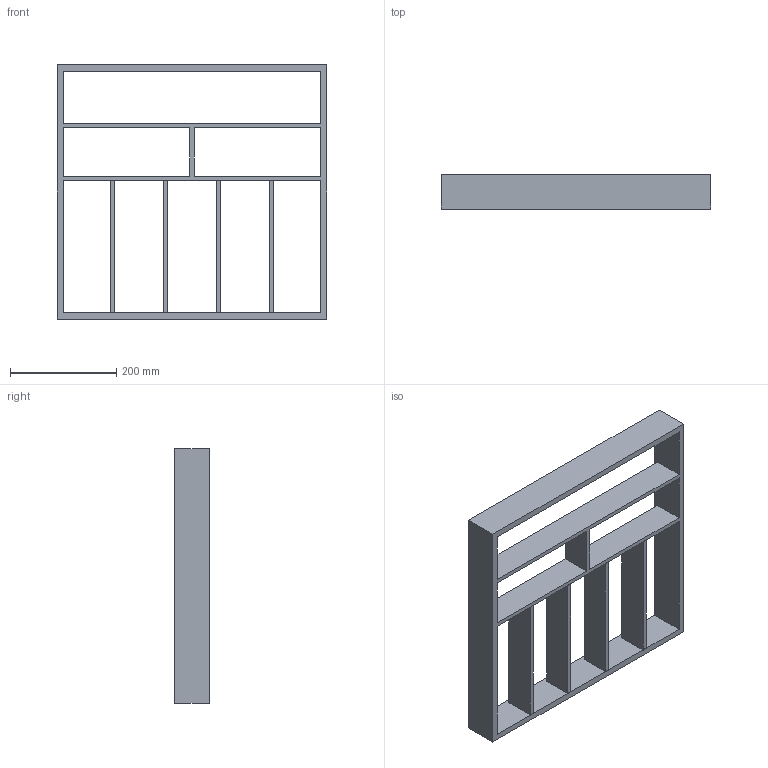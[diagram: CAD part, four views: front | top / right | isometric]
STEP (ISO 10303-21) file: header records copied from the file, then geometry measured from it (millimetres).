
FILE_DESCRIPTION (( 'STEP AP214' ), '1' );
FILE_NAME ('Vario Besteck NL500_B600_16 mm_Alu.step', '2010-11-04T08:33:21', ( 'grass' ), ( '' ), 'SwSTEP 2.0', 'SolidWorks 2010', '' );
FILE_SCHEMA (( 'AUTOMOTIVE_DESIGN' ));
Length unit declared in the file: millimetre
Products named in the file (1): Vario Besteck NL500_B600_16 mm_Alu
Bounding box: 508 x 65 x 479 mm (x, y, z)
Volume: 2439816 mm3; surface area: 564796 mm2
Topology: 5 solids, 5 shells, 43 faces, 108 edges, 72 vertices
Faces by surface type: plane 43
Entity records: 1348 total; most frequent: CARTESIAN_POINT 224, ORIENTED_EDGE 216, DIRECTION 196, VECTOR 108, LINE 108, EDGE_CURVE 108, VERTEX_POINT 72, EDGE_LOOP 48
